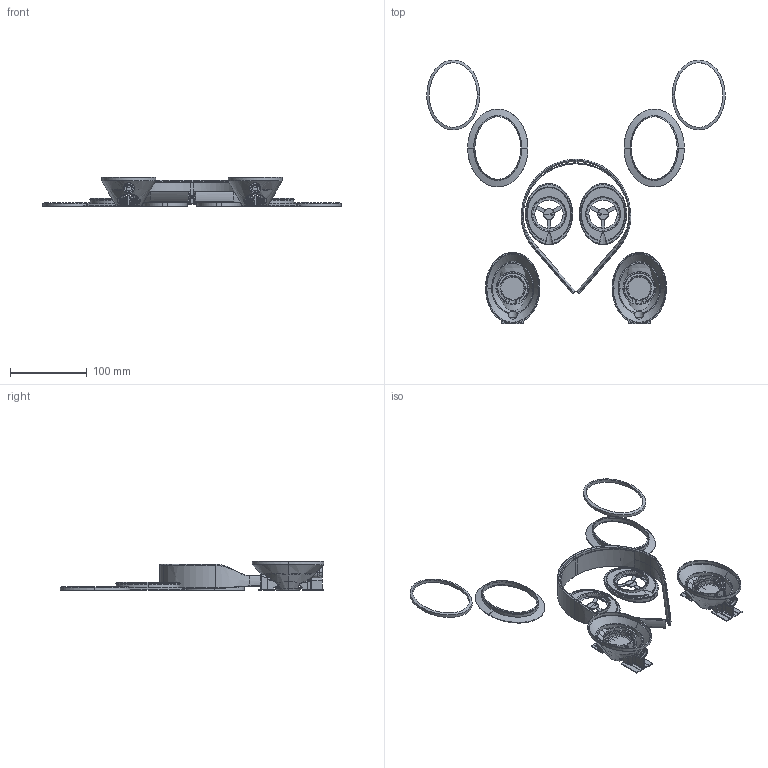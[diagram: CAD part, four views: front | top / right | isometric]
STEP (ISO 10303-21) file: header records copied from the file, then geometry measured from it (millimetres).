
FILE_DESCRIPTION(/* description */ ('Generated from Alias Stage'),/* implementation_level */ '2;1');
FILE_NAME(/* name */ '1330_printableHeadphone_V2',/* time_stamp */ '2013-09-12T10:42:52-07:00',/* author */ (''),/* organization */ ('Autodesk Alias'),/* preprocessor_version */ 'ST-DEVELOPER v12',/* originating_system */ 'Autodesk OpenModel 2013',/* authorisation */ '');
FILE_SCHEMA (('AUTOMOTIVE_DESIGN { 1 2 10303 214 1 1 1 1 }'));
Products named in the file (1): 1330_printableHeadphone_V2
Bounding box: 389.87 x 344.75 x 38.12 mm (x, y, z)
Volume: 118554 mm3; surface area: 156202.2 mm2
Topology: 29 solids, 29 shells, 1134 faces, 2902 edges, 1801 vertices
Faces by surface type: bspline 1134
Entity records: 49439 total; most frequent: CARTESIAN_POINT 35223, ORIENTED_EDGE 5788, EDGE_CURVE 2894, VERTEX_POINT 1867, EDGE_LOOP 1211, FACE_OUTER_BOUND 1134, ADVANCED_FACE 1134, FACE_BOUND 77
